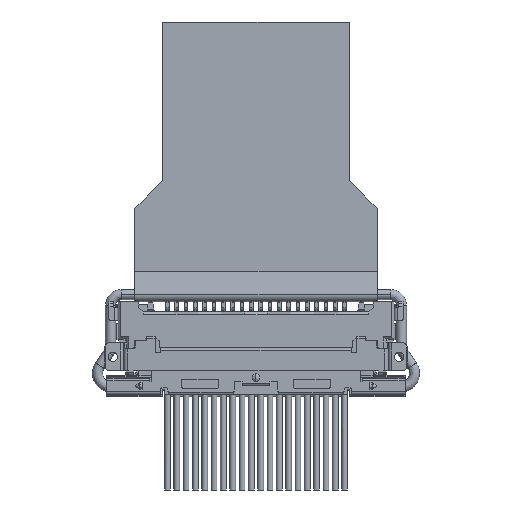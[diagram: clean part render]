
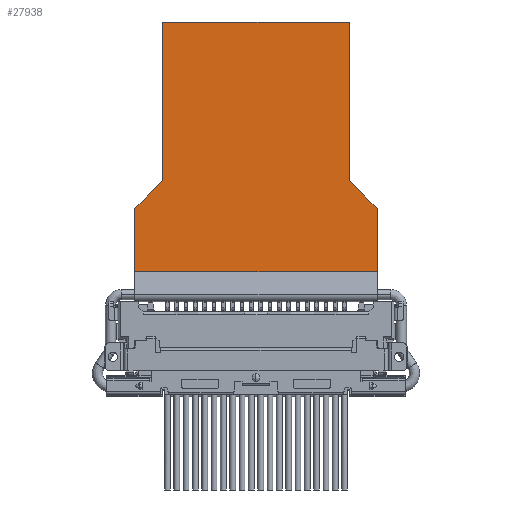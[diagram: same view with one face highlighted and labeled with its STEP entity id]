
A CAD part, front view. The second image highlights one B-rep face of the part: STEP entity #27938.
In plain terms, the highlighted planar face has unit normal (0, -1, 0).
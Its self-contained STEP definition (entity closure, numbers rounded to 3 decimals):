
#2236 = CARTESIAN_POINT ( 'NONE',  ( -6.5, 0.35, 7.505 ) ) ;
#2241 = CARTESIAN_POINT ( 'NONE',  ( -6.5, 0.35, 4.116 ) ) ;
#2245 = CARTESIAN_POINT ( 'NONE',  ( 6.5, 0.35, 7.505 ) ) ;
#2246 = CARTESIAN_POINT ( 'NONE',  ( 6.5, 0.35, 4.116 ) ) ;
#2292 = CARTESIAN_POINT ( 'NONE',  ( 5., 0.35, 17.505 ) ) ;
#2293 = CARTESIAN_POINT ( 'NONE',  ( -5., 0.35, 17.505 ) ) ;
#2294 = CARTESIAN_POINT ( 'NONE',  ( -5., 0.35, 9.005 ) ) ;
#2295 = CARTESIAN_POINT ( 'NONE',  ( 5., 0.35, 9.005 ) ) ;
#10541 = LINE ( 'NONE', #10543, #10914 ) ;
#10543 = CARTESIAN_POINT ( 'NONE',  ( -6.5, 0.35, 4.99 ) ) ;
#10544 = DIRECTION ( 'NONE',  ( 0., 0., -1. ) ) ;
#10559 = LINE ( 'NONE', #10560, #10920 ) ;
#10560 = CARTESIAN_POINT ( 'NONE',  ( 6.5, 0.35, 4.99 ) ) ;
#10561 = DIRECTION ( 'NONE',  ( 0., 0., -1. ) ) ;
#10914 = VECTOR ( 'NONE', #10544, 1000. ) ;
#10920 = VECTOR ( 'NONE', #10561, 1000. ) ;
#12829 = AXIS2_PLACEMENT_3D ( 'NONE', #49215, #49222, #49223 ) ;
#19396 = VECTOR ( 'NONE', #20493, 1000. ) ;
#19408 = VECTOR ( 'NONE', #20502, 1000. ) ;
#19412 = VECTOR ( 'NONE', #20504, 1000. ) ;
#19413 = VECTOR ( 'NONE', #20499, 1000. ) ;
#19414 = VECTOR ( 'NONE', #20496, 1000. ) ;
#19417 = VECTOR ( 'NONE', #20506, 1000. ) ;
#20483 = CARTESIAN_POINT ( 'NONE',  ( 0., 0.35, 4.116 ) ) ;
#20486 = LINE ( 'NONE', #20483, #19396 ) ;
#20487 = LINE ( 'NONE', #20494, #19414 ) ;
#20488 = LINE ( 'NONE', #20497, #19413 ) ;
#20492 = LINE ( 'NONE', #20500, #19408 ) ;
#20493 = DIRECTION ( 'NONE',  ( -1., 0., 0. ) ) ;
#20494 = CARTESIAN_POINT ( 'NONE',  ( 5.75, 0.35, 8.255 ) ) ;
#20495 = LINE ( 'NONE', #20503, #19412 ) ;
#20496 = DIRECTION ( 'NONE',  ( 0.707, 0., -0.707 ) ) ;
#20497 = CARTESIAN_POINT ( 'NONE',  ( 5., 0.35, 13.255 ) ) ;
#20498 = LINE ( 'NONE', #20505, #19417 ) ;
#20499 = DIRECTION ( 'NONE',  ( 0., 0., -1. ) ) ;
#20500 = CARTESIAN_POINT ( 'NONE',  ( 0., 0.35, 17.505 ) ) ;
#20502 = DIRECTION ( 'NONE',  ( 1., 0., 0. ) ) ;
#20503 = CARTESIAN_POINT ( 'NONE',  ( -5., 0.35, 13.255 ) ) ;
#20504 = DIRECTION ( 'NONE',  ( 0., 0., 1. ) ) ;
#20505 = CARTESIAN_POINT ( 'NONE',  ( -5.75, 0.35, 8.255 ) ) ;
#20506 = DIRECTION ( 'NONE',  ( 0.707, 0., 0.707 ) ) ;
#27938 = ADVANCED_FACE ( 'NONE', ( #49219 ), #49220, .F. ) ;
#29189 = VERTEX_POINT ( 'NONE', #2236 ) ;
#29194 = VERTEX_POINT ( 'NONE', #2241 ) ;
#29198 = VERTEX_POINT ( 'NONE', #2245 ) ;
#29199 = VERTEX_POINT ( 'NONE', #2246 ) ;
#29245 = VERTEX_POINT ( 'NONE', #2292 ) ;
#29246 = VERTEX_POINT ( 'NONE', #2293 ) ;
#29247 = VERTEX_POINT ( 'NONE', #2294 ) ;
#29248 = VERTEX_POINT ( 'NONE', #2295 ) ;
#37467 = EDGE_CURVE ( 'NONE', #29189, #29194, #10541, .T. ) ;
#37473 = EDGE_CURVE ( 'NONE', #29198, #29199, #10559, .T. ) ;
#43333 = EDGE_CURVE ( 'NONE', #29199, #29194, #20486, .T. ) ;
#43334 = EDGE_CURVE ( 'NONE', #29248, #29198, #20487, .T. ) ;
#43335 = EDGE_CURVE ( 'NONE', #29245, #29248, #20488, .T. ) ;
#43336 = EDGE_CURVE ( 'NONE', #29246, #29245, #20492, .T. ) ;
#43337 = EDGE_CURVE ( 'NONE', #29247, #29246, #20495, .T. ) ;
#43338 = EDGE_CURVE ( 'NONE', #29189, #29247, #20498, .T. ) ;
#44846 = ORIENTED_EDGE ( 'NONE', *, *, #43334, .F. ) ;
#44847 = ORIENTED_EDGE ( 'NONE', *, *, #43335, .F. ) ;
#44848 = ORIENTED_EDGE ( 'NONE', *, *, #43336, .F. ) ;
#44849 = ORIENTED_EDGE ( 'NONE', *, *, #43337, .F. ) ;
#44850 = ORIENTED_EDGE ( 'NONE', *, *, #43338, .F. ) ;
#44851 = ORIENTED_EDGE ( 'NONE', *, *, #37467, .T. ) ;
#44852 = ORIENTED_EDGE ( 'NONE', *, *, #43333, .F. ) ;
#44853 = ORIENTED_EDGE ( 'NONE', *, *, #37473, .F. ) ;
#46114 = EDGE_LOOP ( 'NONE', ( #44846, #44847, #44848, #44849, #44850, #44851, #44852, #44853 ) ) ;
#49215 = CARTESIAN_POINT ( 'NONE',  ( -6.5, 0.35, 4.116 ) ) ;
#49219 = FACE_OUTER_BOUND ( 'NONE', #46114, .T. ) ;
#49220 = PLANE ( 'NONE',  #12829 ) ;
#49222 = DIRECTION ( 'NONE',  ( 0., 1., 0. ) ) ;
#49223 = DIRECTION ( 'NONE',  ( 0., 0., 1. ) ) ;
